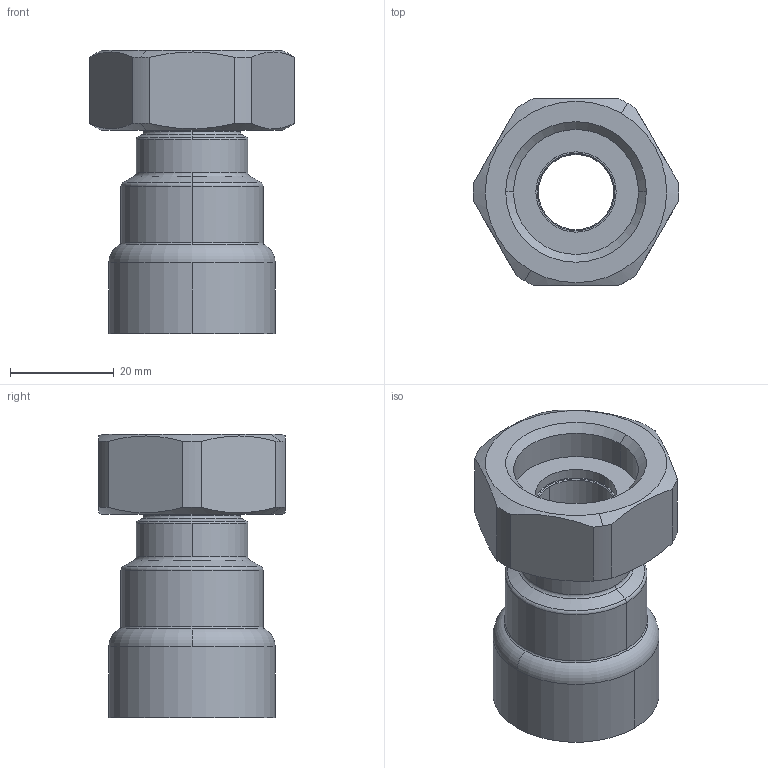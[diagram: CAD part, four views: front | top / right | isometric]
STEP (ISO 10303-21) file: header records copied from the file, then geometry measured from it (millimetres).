
FILE_DESCRIPTION(('Creo Elements/Direct Modeling STEP Export'),'2;1');
FILE_NAME('C9446_1-2_G3-4.stp','2020-07-20T14:15:51',(''),(''),'PTC Creo Elements/Direct Modeling STEP processor for AP214 (Solid Model)','PTC Creo Elements/Direct Modeling 19.0C 15-Aug-2015 (C) Parametric Technology GmbH','');
FILE_SCHEMA(('AUTOMOTIVE_DESIGN { 1 0 10303 214 1 1 1 1 }'));
Length unit declared in the file: millimetre
Products named in the file (2): C9446_1-2_G3-4
Assembly tree (1 placements, depth 2):
  C9446_1-2_G3-4
    C9446_1-2_G3-4
Bounding box: 39.58 x 36 x 54.6 mm (x, y, z)
Volume: 23740.6 mm3; surface area: 11163.4 mm2
Topology: 1 solids, 1 shells, 58 faces, 142 edges, 90 vertices
Faces by surface type: cylinder 22, plane 12, cone 12, torus 12
Entity records: 2506 total; most frequent: CARTESIAN_POINT 1149, ORIENTED_EDGE 284, DIRECTION 254, EDGE_CURVE 142, AXIS2_PLACEMENT_3D 107, VERTEX_POINT 90, EDGE_LOOP 64, FACE_OUTER_BOUND 58
